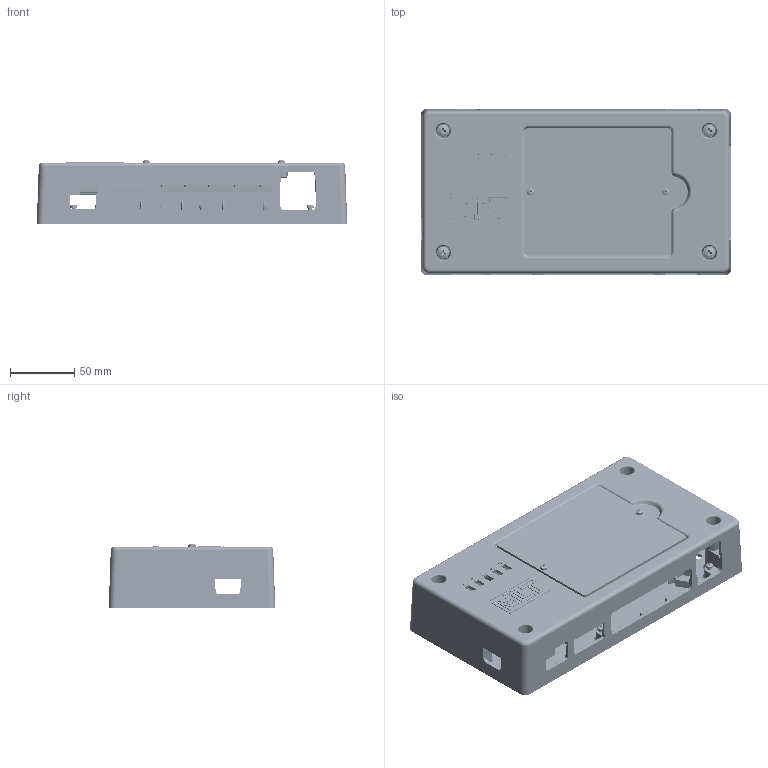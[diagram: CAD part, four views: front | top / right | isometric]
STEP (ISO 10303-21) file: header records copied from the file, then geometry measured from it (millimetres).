
FILE_DESCRIPTION (( 'STEP AP214' ), '1' );
FILE_NAME ('SwitchMaster Mini hardware only.STEP', '2023-08-08T13:12:49', ( '' ), ( '' ), 'SwSTEP 2.0', 'SolidWorks 2021', '' );
FILE_SCHEMA (( 'AUTOMOTIVE_DESIGN' ));
Length unit declared in the file: millimetre
Products named in the file (10): TR Fastenings Ltd-M5 HEATSERT_M5; SwitchMaster Mini Back Housing Insert Subassembly; SwitchMaster Mini - Front Casing - V1; SwitchMaster Mini Top Housing Insert Subassembly; pan head cross recess screw_iso_ISO 7045 - M3 x 6 - Z - 6N; SwitchMaster Mini hardware only; pan head cross recess screw_iso_ISO 7045 - M5 x 10 - Z - 10N; SwitchMaster Mini - Back Casing wall mount - V1; SwitchMaster - Small Access Window; TR Fastenings Ltd-M3 HEATSERT_M3
Assembly tree (37 placements, depth 3):
  SwitchMaster Mini hardware only
    SwitchMaster Mini Back Housing Insert Subassembly
      TR Fastenings Ltd-M5 HEATSERT_M5  x4
      TR Fastenings Ltd-M3 HEATSERT_M3  x6
      SwitchMaster Mini - Back Casing wall mount - V1
    SwitchMaster Mini Top Housing Insert Subassembly
      SwitchMaster Mini - Front Casing - V1
      TR Fastenings Ltd-M3 HEATSERT_M3  x6
    pan head cross recess screw_iso_ISO 7045 - M5 x 10 - Z - 10N  x4
    pan head cross recess screw_iso_ISO 7045 - M3 x 6 - Z - 6N  x12
    SwitchMaster - Small Access Window
Bounding box: 241.59 x 129.59 x 49.95 mm (x, y, z)
Volume: 280109.6 mm3; surface area: 216008.5 mm2
Topology: 35 solids, 36 shells, 8596 faces, 22641 edges, 14025 vertices
Faces by surface type: bspline 3611, cylinder 2890, plane 1274, cone 411, sphere 212, torus 198
Entity records: 154895 total; most frequent: CARTESIAN_POINT 67316, ORIENTED_EDGE 20218, DIRECTION 14720, EDGE_CURVE 10109, VERTEX_POINT 6044, AXIS2_PLACEMENT_3D 5724, EDGE_LOOP 4259, FACE_OUTER_BOUND 4152
